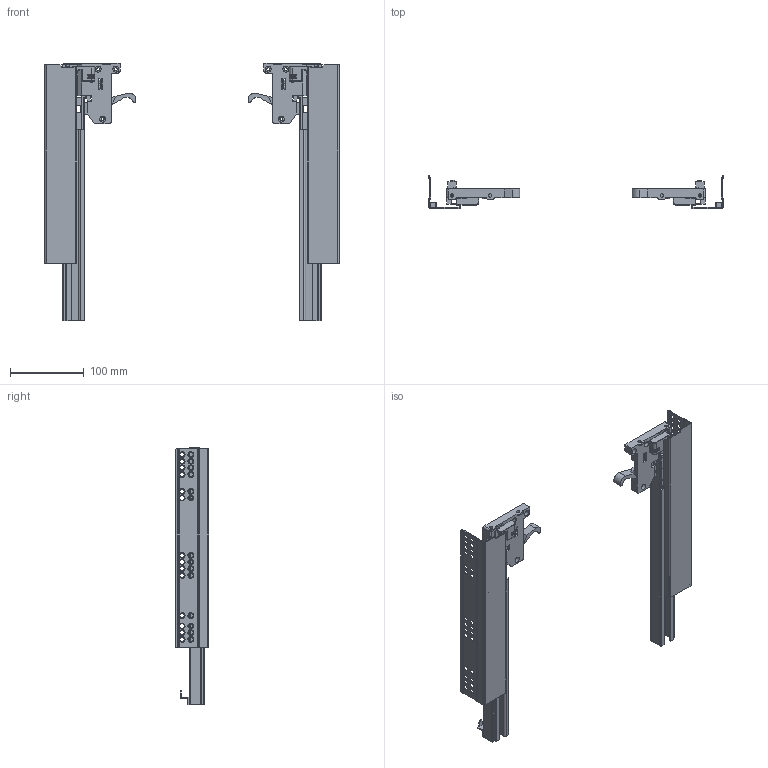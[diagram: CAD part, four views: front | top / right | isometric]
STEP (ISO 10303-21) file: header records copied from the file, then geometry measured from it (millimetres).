
FILE_DESCRIPTION(/* description */ (''),/* implementation_level */ '2;1');
FILE_NAME(/* name */ 'D:\$Workingspace\Designs\Katalog\Cadsoft\GTV Prowadnice\PB-3D0SHX18-...-H\PB-3D0SHX18-350-H.stp',/* time_stamp */ '2019-05-23T09:21:29+02:00',/* author */ ('tomaszw'),/* organization */ (''),/* preprocessor_version */ 'ST-DEVELOPER v17',/* originating_system */ 'Autodesk Inventor 2019',/* authorisation */ '');
FILE_SCHEMA (('AUTOMOTIVE_DESIGN { 1 0 10303 214 3 1 1 }'));
Length unit declared in the file: millimetre
Products named in the file (9): PB-3D0SHX18-350_H; PB-3D0SHX18-CL-350_H; PB-3D0SHX18-CR-350_H; PB-3D0SHX18-DL-350_H; PB-3D0SHX18-DR-350_H; PB-3D0SHX18-DWL-350_H; PB-3D0SHX18-DWR-350_H; PB-3D0SHX18_H-SL; PB-3D0SHX18_H-SR
Assembly tree (8 placements, depth 2):
  PB-3D0SHX18-350_H
    PB-3D0SHX18-CL-350_H
    PB-3D0SHX18-CR-350_H
    PB-3D0SHX18-DL-350_H
    PB-3D0SHX18-DR-350_H
    PB-3D0SHX18-DWL-350_H
    PB-3D0SHX18-DWR-350_H
    PB-3D0SHX18_H-SL
    PB-3D0SHX18_H-SR
Bounding box: 400 x 45 x 350 mm (x, y, z)
Volume: 313240.8 mm3; surface area: 309139.6 mm2
Topology: 20 solids, 20 shells, 1040 faces, 2960 edges, 1964 vertices
Faces by surface type: plane 604, cylinder 362, cone 56, sphere 10, torus 8
Full cylindrical faces by diameter (mm): 3 x2, 4 x12, 4.5 x4, 6 x56, 8 x6
Entity records: 35726 total; most frequent: DIRECTION 6000, CARTESIAN_POINT 5993, ORIENTED_EDGE 5928, EDGE_CURVE 2964, LINE 2042, VECTOR 2042, AXIS2_PLACEMENT_3D 1979, VERTEX_POINT 1972
